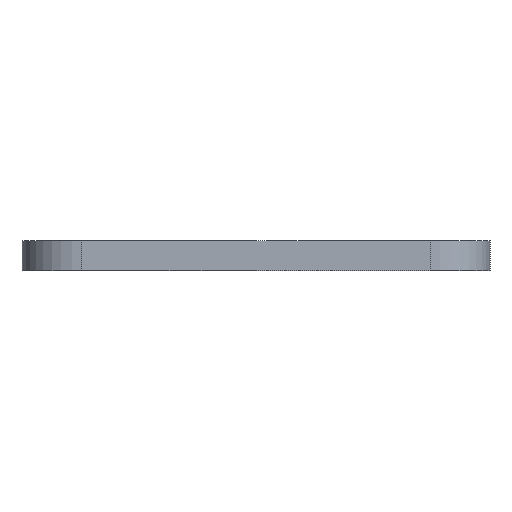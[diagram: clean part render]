
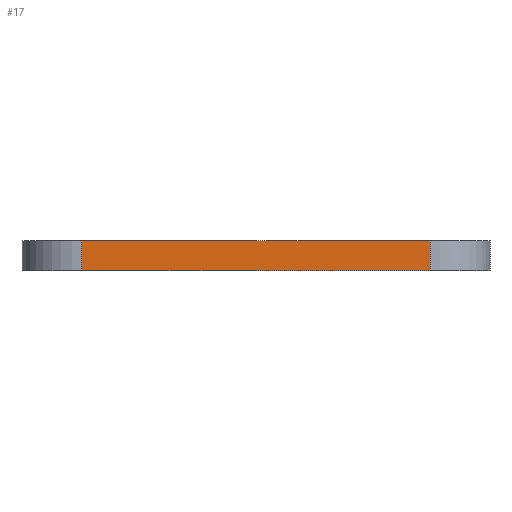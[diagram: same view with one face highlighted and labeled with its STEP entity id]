
A CAD part, left-side view. The second image highlights one B-rep face of the part: STEP entity #17.
In plain terms, the highlighted planar face has unit normal (-1, 0, 0).
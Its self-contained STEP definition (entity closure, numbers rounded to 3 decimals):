
#17 = ADVANCED_FACE('',(#18),#32,.F.);
#18 = FACE_BOUND('',#19,.F.);
#19 = EDGE_LOOP('',(#20,#55,#83,#111));
#20 = ORIENTED_EDGE('',*,*,#21,.F.);
#21 = EDGE_CURVE('',#22,#24,#26,.T.);
#22 = VERTEX_POINT('',#23);
#23 = CARTESIAN_POINT('',(-34.25,-40.5,8.5));
#24 = VERTEX_POINT('',#25);
#25 = CARTESIAN_POINT('',(-34.25,-11.5,8.5));
#26 = SURFACE_CURVE('',#27,(#31,#43),.PCURVE_S1.);
#27 = LINE('',#28,#29);
#28 = CARTESIAN_POINT('',(-34.25,-45.5,8.5));
#29 = VECTOR('',#30,1.);
#30 = DIRECTION('',(-0.,1.,0.));
#31 = PCURVE('',#32,#37);
#32 = PLANE('',#33);
#33 = AXIS2_PLACEMENT_3D('',#34,#35,#36);
#34 = CARTESIAN_POINT('',(-34.25,-45.5,6.));
#35 = DIRECTION('',(1.,0.,-0.));
#36 = DIRECTION('',(0.,0.,1.));
#37 = DEFINITIONAL_REPRESENTATION('',(#38),#42);
#38 = LINE('',#39,#40);
#39 = CARTESIAN_POINT('',(2.5,0.));
#40 = VECTOR('',#41,1.);
#41 = DIRECTION('',(0.,-1.));
#42 = ( GEOMETRIC_REPRESENTATION_CONTEXT(2) 
PARAMETRIC_REPRESENTATION_CONTEXT() REPRESENTATION_CONTEXT('2D SPACE',''
  ) );
#43 = PCURVE('',#44,#49);
#44 = PLANE('',#45);
#45 = AXIS2_PLACEMENT_3D('',#46,#47,#48);
#46 = CARTESIAN_POINT('',(-34.25,-45.5,8.5));
#47 = DIRECTION('',(0.,0.,1.));
#48 = DIRECTION('',(1.,0.,-0.));
#49 = DEFINITIONAL_REPRESENTATION('',(#50),#54);
#50 = LINE('',#51,#52);
#51 = CARTESIAN_POINT('',(0.,0.));
#52 = VECTOR('',#53,1.);
#53 = DIRECTION('',(0.,1.));
#54 = ( GEOMETRIC_REPRESENTATION_CONTEXT(2) 
PARAMETRIC_REPRESENTATION_CONTEXT() REPRESENTATION_CONTEXT('2D SPACE',''
  ) );
#55 = ORIENTED_EDGE('',*,*,#56,.F.);
#56 = EDGE_CURVE('',#57,#22,#59,.T.);
#57 = VERTEX_POINT('',#58);
#58 = CARTESIAN_POINT('',(-34.25,-40.5,6.));
#59 = SURFACE_CURVE('',#60,(#64,#71),.PCURVE_S1.);
#60 = LINE('',#61,#62);
#61 = CARTESIAN_POINT('',(-34.25,-40.5,6.));
#62 = VECTOR('',#63,1.);
#63 = DIRECTION('',(0.,0.,1.));
#64 = PCURVE('',#32,#65);
#65 = DEFINITIONAL_REPRESENTATION('',(#66),#70);
#66 = LINE('',#67,#68);
#67 = CARTESIAN_POINT('',(0.,-5.));
#68 = VECTOR('',#69,1.);
#69 = DIRECTION('',(1.,0.));
#70 = ( GEOMETRIC_REPRESENTATION_CONTEXT(2) 
PARAMETRIC_REPRESENTATION_CONTEXT() REPRESENTATION_CONTEXT('2D SPACE',''
  ) );
#71 = PCURVE('',#72,#77);
#72 = CYLINDRICAL_SURFACE('',#73,5.);
#73 = AXIS2_PLACEMENT_3D('',#74,#75,#76);
#74 = CARTESIAN_POINT('',(-29.25,-40.5,6.));
#75 = DIRECTION('',(0.,0.,1.));
#76 = DIRECTION('',(-1.,-0.,0.));
#77 = DEFINITIONAL_REPRESENTATION('',(#78),#82);
#78 = LINE('',#79,#80);
#79 = CARTESIAN_POINT('',(0.,0.));
#80 = VECTOR('',#81,1.);
#81 = DIRECTION('',(0.,1.));
#82 = ( GEOMETRIC_REPRESENTATION_CONTEXT(2) 
PARAMETRIC_REPRESENTATION_CONTEXT() REPRESENTATION_CONTEXT('2D SPACE',''
  ) );
#83 = ORIENTED_EDGE('',*,*,#84,.T.);
#84 = EDGE_CURVE('',#57,#85,#87,.T.);
#85 = VERTEX_POINT('',#86);
#86 = CARTESIAN_POINT('',(-34.25,-11.5,6.));
#87 = SURFACE_CURVE('',#88,(#92,#99),.PCURVE_S1.);
#88 = LINE('',#89,#90);
#89 = CARTESIAN_POINT('',(-34.25,-45.5,6.));
#90 = VECTOR('',#91,1.);
#91 = DIRECTION('',(-0.,1.,0.));
#92 = PCURVE('',#32,#93);
#93 = DEFINITIONAL_REPRESENTATION('',(#94),#98);
#94 = LINE('',#95,#96);
#95 = CARTESIAN_POINT('',(0.,0.));
#96 = VECTOR('',#97,1.);
#97 = DIRECTION('',(0.,-1.));
#98 = ( GEOMETRIC_REPRESENTATION_CONTEXT(2) 
PARAMETRIC_REPRESENTATION_CONTEXT() REPRESENTATION_CONTEXT('2D SPACE',''
  ) );
#99 = PCURVE('',#100,#105);
#100 = PLANE('',#101);
#101 = AXIS2_PLACEMENT_3D('',#102,#103,#104);
#102 = CARTESIAN_POINT('',(-34.25,-45.5,6.));
#103 = DIRECTION('',(0.,0.,1.));
#104 = DIRECTION('',(1.,0.,-0.));
#105 = DEFINITIONAL_REPRESENTATION('',(#106),#110);
#106 = LINE('',#107,#108);
#107 = CARTESIAN_POINT('',(0.,0.));
#108 = VECTOR('',#109,1.);
#109 = DIRECTION('',(0.,1.));
#110 = ( GEOMETRIC_REPRESENTATION_CONTEXT(2) 
PARAMETRIC_REPRESENTATION_CONTEXT() REPRESENTATION_CONTEXT('2D SPACE',''
  ) );
#111 = ORIENTED_EDGE('',*,*,#112,.T.);
#112 = EDGE_CURVE('',#85,#24,#113,.T.);
#113 = SURFACE_CURVE('',#114,(#118,#125),.PCURVE_S1.);
#114 = LINE('',#115,#116);
#115 = CARTESIAN_POINT('',(-34.25,-11.5,6.));
#116 = VECTOR('',#117,1.);
#117 = DIRECTION('',(0.,0.,1.));
#118 = PCURVE('',#32,#119);
#119 = DEFINITIONAL_REPRESENTATION('',(#120),#124);
#120 = LINE('',#121,#122);
#121 = CARTESIAN_POINT('',(0.,-34.));
#122 = VECTOR('',#123,1.);
#123 = DIRECTION('',(1.,0.));
#124 = ( GEOMETRIC_REPRESENTATION_CONTEXT(2) 
PARAMETRIC_REPRESENTATION_CONTEXT() REPRESENTATION_CONTEXT('2D SPACE',''
  ) );
#125 = PCURVE('',#126,#131);
#126 = CYLINDRICAL_SURFACE('',#127,5.);
#127 = AXIS2_PLACEMENT_3D('',#128,#129,#130);
#128 = CARTESIAN_POINT('',(-29.25,-11.5,6.));
#129 = DIRECTION('',(0.,0.,1.));
#130 = DIRECTION('',(-1.,-0.,0.));
#131 = DEFINITIONAL_REPRESENTATION('',(#132),#136);
#132 = LINE('',#133,#134);
#133 = CARTESIAN_POINT('',(-0.,0.));
#134 = VECTOR('',#135,1.);
#135 = DIRECTION('',(-0.,1.));
#136 = ( GEOMETRIC_REPRESENTATION_CONTEXT(2) 
PARAMETRIC_REPRESENTATION_CONTEXT() REPRESENTATION_CONTEXT('2D SPACE',''
  ) );
